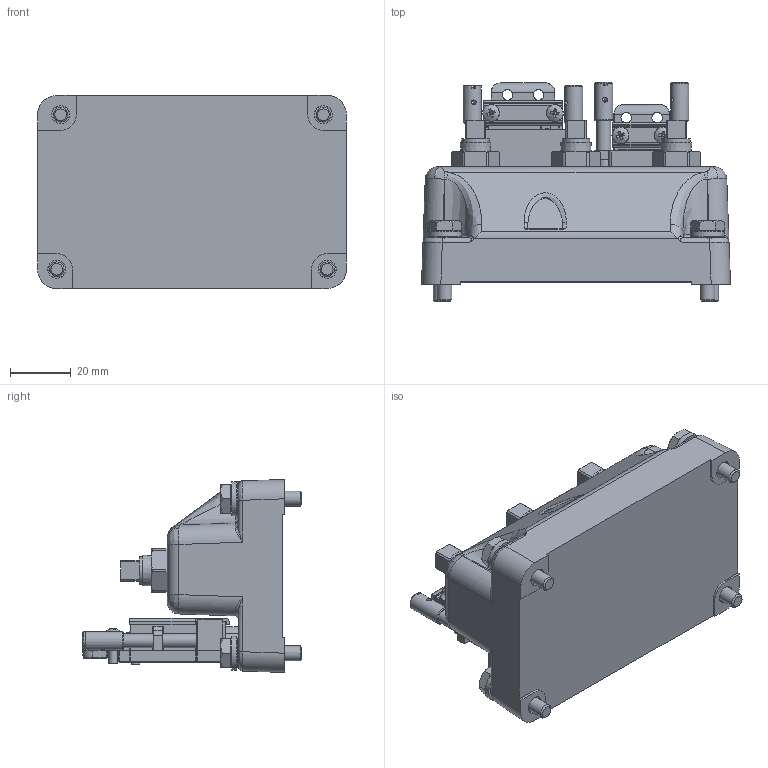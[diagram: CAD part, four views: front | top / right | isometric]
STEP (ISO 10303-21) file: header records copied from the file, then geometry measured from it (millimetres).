
FILE_DESCRIPTION (( 'STEP AP203' ), '1' );
FILE_NAME ('GSU25_rev1_1.STEP', '2017-08-30T16:50:39', ( 'Garmin' ), ( 'Garmin' ), 'SwSTEP 2.0', 'SolidWorks 2016', '' );
FILE_SCHEMA (( 'CONFIG_CONTROL_DESIGN' ));
Length unit declared in the file: inch
Products named in the file (1): GSU25_rev1_1
Bounding box: 101.55 x 72.12 x 63.45 mm (x, y, z)
Volume: 206995 mm3; surface area: 43864.2 mm2
Topology: 3 solids, 11 shells, 1478 faces, 3852 edges, 2401 vertices
Faces by surface type: plane 771, cylinder 478, bspline 127, cone 102
Full cylindrical faces by diameter (mm): 1.016 x24, 1.587 x2, 1.588 x2, 1.778 x1, 2.261 x12, 2.845 x8, 3.302 x8, 3.454 x4, 3.5 x8, 4.572 x4, 4.801 x4, 4.826 x4, 5.588 x4, 5.944 x4, 8.509 x4, 9.042 x3, 11.125 x4
Entity records: 49586 total; most frequent: CARTESIAN_POINT 15703, ORIENTED_EDGE 7246, DIRECTION 6539, EDGE_CURVE 3623, VERTEX_POINT 2331, AXIS2_PLACEMENT_3D 2251, VECTOR 2037, LINE 2037
